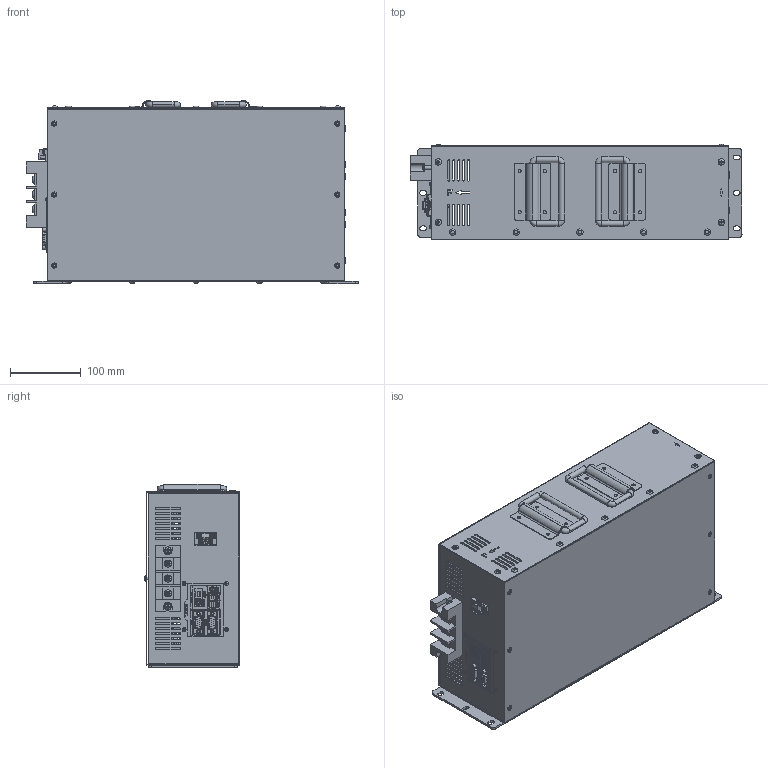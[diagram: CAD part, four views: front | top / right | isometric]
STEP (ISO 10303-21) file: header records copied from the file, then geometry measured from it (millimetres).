
FILE_DESCRIPTION(/* description */ (''),/* implementation_level */ '2;1');
FILE_NAME(/* name */ 'H:\04_배터리_전기종\고부하용 배터리 케이스_3D\[NEW] VX3COM_V_HANDLE2SM 고객용\VX3COM_V_HANDLE2SM_2024.07.23.stp',/* time_stamp */ '2025-07-24T16:09:20+09:00',/* author */ ('jjang'),/* organization */ (''),/* preprocessor_version */ 'ST-DEVELOPER v18.1',/* originating_system */ 'Autodesk Inventor 2021',/* authorisation */ '');
FILE_SCHEMA (('CONFIG_CONTROL_DESIGN'));
Products named in the file (1): VX3COM_V_HANDLE2SM_2024.07.23_Shrinkwrap_1
Bounding box: 468 x 134.59 x 258.2 mm (x, y, z)
Volume: 730522.6 mm3; surface area: 903369.4 mm2
Topology: 9 solids, 9 shells, 4812 faces, 14264 edges, 9858 vertices
Faces by surface type: plane 2645, cylinder 1266, bspline 676, torus 145, cone 53, sphere 27
Full cylindrical faces by diameter (mm): 0.609 x1, 0.61 x27, 0.635 x9, 0.9 x6, 1.397 x9, 1.4 x1, 2.286 x9, 2.8 x8, 2.957 x4, 3 x2, 3.048 x4, 3.2 x4, 3.6 x10, 3.783 x2, 3.8 x10, 3.9 x2, 4 x23, 4.3 x12, 4.5 x14, 5 x17, 5.3 x20, 5.4 x2, 5.429 x2, 5.6 x4, 6 x2, 6.082 x1, 7.5 x4, 8 x1, 8.4 x12, 9 x6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
Entity records: 193123 total; most frequent: CARTESIAN_POINT 62101, ORIENTED_EDGE 28490, DIRECTION 23861, EDGE_CURVE 14245, VERTEX_POINT 9858, LINE 7989, VECTOR 7989, AXIS2_PLACEMENT_3D 7936
